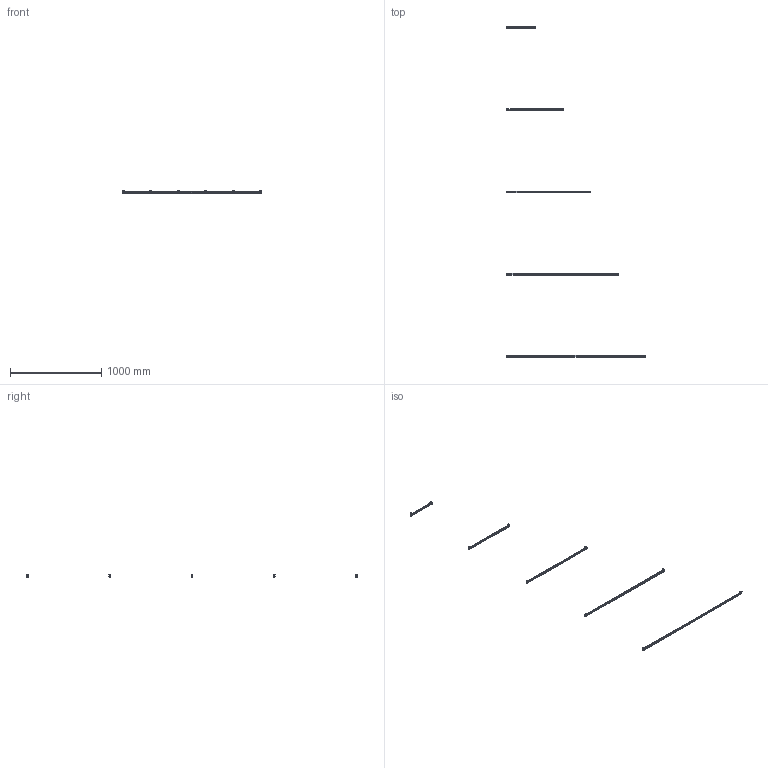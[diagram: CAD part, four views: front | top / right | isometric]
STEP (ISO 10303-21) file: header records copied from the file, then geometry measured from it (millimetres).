
FILE_DESCRIPTION(/* description */ (''),/* implementation_level */ '2;1');
FILE_NAME(/* name */ 'C:/Users/elena/Desktop/Piko HV (a) .step',/* time_stamp */ '2020-07-06T13:36:12+02:00',/* author */ (''),/* organization */ (''),/* preprocessor_version */ 'ST-DEVELOPER v18.1',/* originating_system */ 'Autodesk Translation Framework v9.3.0.1241',/* authorisation */ '');
FILE_SCHEMA (('AUTOMOTIVE_DESIGN { 1 0 10303 214 3 1 1 }'));
Length unit declared in the file: millimetre
Products named in the file (2): Piko HV (a); 01A
Assembly tree (1 placements, depth 2):
  Piko HV (a)
    01A
Bounding box: 1522 x 3619.8 x 31.04 mm (x, y, z)
Volume: 1122401.3 mm3; surface area: 555673.3 mm2
Topology: 30 solids, 30 shells, 826 faces, 2083 edges, 1367 vertices
Faces by surface type: cylinder 470, plane 296, bspline 50, cone 10
Full cylindrical faces by diameter (mm): 2.5 x20, 3 x10, 7 x20, 19.8 x10
Entity records: 32161 total; most frequent: CARTESIAN_POINT 11399, DIRECTION 4531, ORIENTED_EDGE 4166, EDGE_CURVE 2083, AXIS2_PLACEMENT_3D 1749, VERTEX_POINT 1367, LINE 1033, VECTOR 1033
